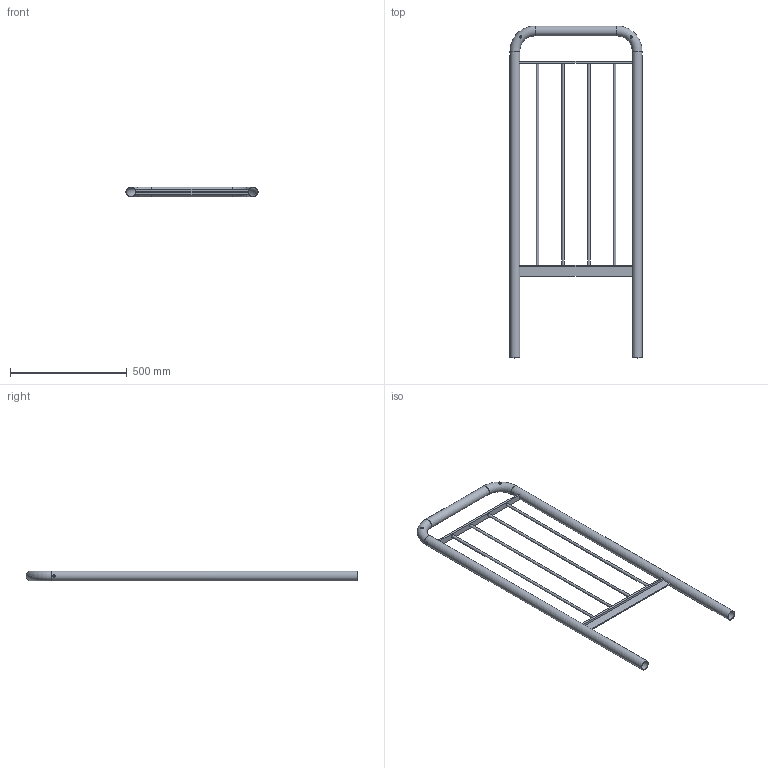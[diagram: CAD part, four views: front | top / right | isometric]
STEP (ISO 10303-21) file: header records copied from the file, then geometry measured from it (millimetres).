
FILE_DESCRIPTION((''),'2;1');
FILE_NAME('S:\Användarkataloger\AndreasA\Mina Inventor filer\Räcken\STEP\modul_bos_600-1400.stp','2010-09-07T13:30:29',('AndreasA'),(''),'Autodesk Inventor 2011','Autodesk Inventor 2011','');
FILE_SCHEMA(('AUTOMOTIVE_DESIGN { 1 0 10303 214 1 1 1 1 }'));
Length unit declared in the file: millimetre
Products named in the file (4): modul_bos_600-1400; handledare_modul_600-1400; galleri_modul_600; pls_modul_bos_600
Assembly tree (3 placements, depth 2):
  modul_bos_600-1400
    handledare_modul_600-1400
    galleri_modul_600
    pls_modul_bos_600
Bounding box: 565.4 x 1421.2 x 42.4 mm (x, y, z)
Volume: 1440058.1 mm3; surface area: 1050872.2 mm2
Topology: 3 solids, 3 shells, 42 faces, 106 edges, 68 vertices
Faces by surface type: plane 20, cylinder 18, torus 4
Full cylindrical faces by diameter (mm): 10 x4, 11 x8, 38.4 x3, 42.4 x3
Entity records: 1895 total; most frequent: CARTESIAN_POINT 897, DIRECTION 174, ORIENTED_EDGE 144, EDGE_LOOP 90, EDGE_CURVE 72, AXIS2_PLACEMENT_3D 69, VERTEX_POINT 60, FACE_BOUND 48
